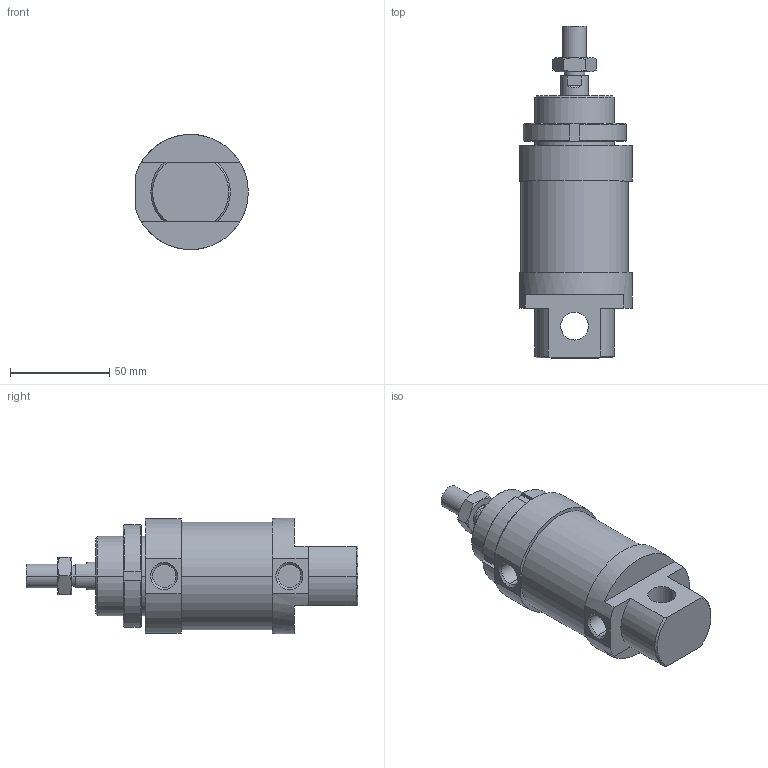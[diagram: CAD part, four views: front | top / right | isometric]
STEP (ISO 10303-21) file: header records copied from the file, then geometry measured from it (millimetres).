
FILE_DESCRIPTION((''),'2;1');
FILE_NAME('I:\DOC-EDP\Lib-3d\1200\CILINDRI\1260\1260_50_0000.stp','2003-04-02T15:09:57',('maffial1'),(''),'Autodesk Inventor (R) 6.0','Autodesk Inventor (R) 6.0','');
FILE_SCHEMA(('AUTOMOTIVE_DESIGN { 1 0 10303 214 1 1 1 1 }'));
Length unit declared in the file: millimetre
Products named in the file (5): 1260_50_0000; S1260_50_0; 1200_50_05; 1200_50_06; C1260_50_0
Assembly tree (4 placements, depth 2):
  1260_50_0000
    S1260_50_0
    1200_50_05
    1200_50_06
    C1260_50_0
Bounding box: 56.6 x 167 x 58 mm (x, y, z)
Volume: 257747 mm3; surface area: 39005.2 mm2
Topology: 4 solids, 4 shells, 122 faces, 286 edges, 180 vertices
Faces by surface type: plane 44, cone 32, cylinder 26, bspline 20
Entity records: 3831 total; most frequent: CARTESIAN_POINT 997, DIRECTION 582, ORIENTED_EDGE 572, EDGE_CURVE 286, AXIS2_PLACEMENT_3D 229, VERTEX_POINT 180, EDGE_LOOP 136, VECTOR 124
